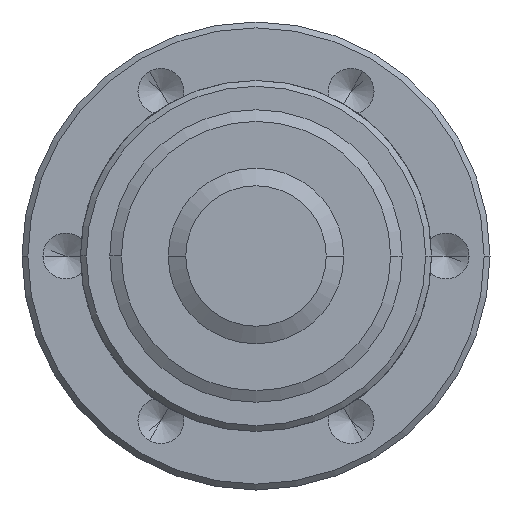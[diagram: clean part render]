
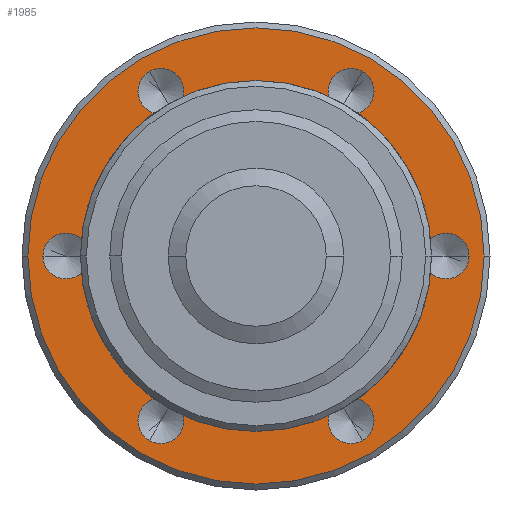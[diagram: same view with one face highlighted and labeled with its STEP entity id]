
A CAD part, left-side view. The second image highlights one B-rep face of the part: STEP entity #1985.
In plain terms, the highlighted planar face has unit normal (-1, 0, 0).
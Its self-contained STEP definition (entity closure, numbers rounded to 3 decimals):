
#97=CARTESIAN_POINT('',(0.,0.,0.));
#98=DIRECTION('',(-1.,0.,0.));
#99=DIRECTION('',(0.,1.,0.));
#100=AXIS2_PLACEMENT_3D('',#97,#98,#99);
#105=CARTESIAN_POINT('',(0.,0.,0.));
#106=DIRECTION('',(-1.,0.,0.));
#107=DIRECTION('',(0.,-1.,0.));
#108=AXIS2_PLACEMENT_3D('',#105,#106,#107);
#113=CARTESIAN_POINT('',(0.,6.5,0.));
#114=DIRECTION('',(1.,0.,0.));
#115=DIRECTION('',(0.,-1.,0.));
#116=AXIS2_PLACEMENT_3D('',#113,#114,#115);
#121=CARTESIAN_POINT('',(0.,6.5,0.));
#122=DIRECTION('',(1.,0.,0.));
#123=DIRECTION('',(0.,1.,0.));
#124=AXIS2_PLACEMENT_3D('',#121,#122,#123);
#129=CARTESIAN_POINT('',(0.,3.25,5.629));
#130=DIRECTION('',(1.,0.,0.));
#131=DIRECTION('',(0.,-0.5,-0.866));
#132=AXIS2_PLACEMENT_3D('',#129,#130,#131);
#137=CARTESIAN_POINT('',(0.,3.25,5.629));
#138=DIRECTION('',(1.,0.,0.));
#139=DIRECTION('',(0.,0.5,0.866));
#140=AXIS2_PLACEMENT_3D('',#137,#138,#139);
#145=CARTESIAN_POINT('',(0.,-3.25,5.629));
#146=DIRECTION('',(1.,0.,0.));
#147=DIRECTION('',(0.,0.5,-0.866));
#148=AXIS2_PLACEMENT_3D('',#145,#146,#147);
#153=CARTESIAN_POINT('',(0.,-3.25,5.629));
#154=DIRECTION('',(1.,0.,0.));
#155=DIRECTION('',(0.,-0.5,0.866));
#156=AXIS2_PLACEMENT_3D('',#153,#154,#155);
#161=CARTESIAN_POINT('',(0.,-6.5,0.));
#162=DIRECTION('',(1.,0.,0.));
#163=DIRECTION('',(0.,1.,0.));
#164=AXIS2_PLACEMENT_3D('',#161,#162,#163);
#169=CARTESIAN_POINT('',(0.,-6.5,0.));
#170=DIRECTION('',(1.,0.,0.));
#171=DIRECTION('',(0.,-1.,0.));
#172=AXIS2_PLACEMENT_3D('',#169,#170,#171);
#177=CARTESIAN_POINT('',(0.,-3.25,-5.629));
#178=DIRECTION('',(1.,0.,0.));
#179=DIRECTION('',(0.,0.5,0.866));
#180=AXIS2_PLACEMENT_3D('',#177,#178,#179);
#185=CARTESIAN_POINT('',(0.,-3.25,-5.629));
#186=DIRECTION('',(1.,0.,0.));
#187=DIRECTION('',(0.,-0.5,-0.866));
#188=AXIS2_PLACEMENT_3D('',#185,#186,#187);
#193=CARTESIAN_POINT('',(0.,3.25,-5.629));
#194=DIRECTION('',(1.,0.,0.));
#195=DIRECTION('',(0.,-0.5,0.866));
#196=AXIS2_PLACEMENT_3D('',#193,#194,#195);
#201=CARTESIAN_POINT('',(0.,3.25,-5.629));
#202=DIRECTION('',(1.,0.,0.));
#203=DIRECTION('',(0.,0.5,-0.866));
#204=AXIS2_PLACEMENT_3D('',#201,#202,#203);
#823=CARTESIAN_POINT('',(0.,0.,0.));
#824=DIRECTION('',(1.,0.,0.));
#825=DIRECTION('',(0.,1.,0.));
#826=AXIS2_PLACEMENT_3D('',#823,#824,#825);
#838=CARTESIAN_POINT('',(0.,0.,0.));
#839=DIRECTION('',(-1.,0.,0.));
#840=DIRECTION('',(0.,1.,0.));
#841=AXIS2_PLACEMENT_3D('',#838,#839,#840);
#1642=CARTESIAN_POINT('',(0.,5.715,0.));
#1643=CARTESIAN_POINT('',(0.,7.285,0.));
#1644=VERTEX_POINT('',#1642);
#1645=VERTEX_POINT('',#1643);
#1652=CARTESIAN_POINT('',(0.,2.858,4.949));
#1653=CARTESIAN_POINT('',(0.,3.643,6.309));
#1654=VERTEX_POINT('',#1652);
#1655=VERTEX_POINT('',#1653);
#1662=CARTESIAN_POINT('',(0.,-2.858,4.949));
#1663=CARTESIAN_POINT('',(0.,-3.643,6.309));
#1664=VERTEX_POINT('',#1662);
#1665=VERTEX_POINT('',#1663);
#1672=CARTESIAN_POINT('',(0.,-5.715,0.));
#1673=CARTESIAN_POINT('',(0.,-7.285,0.));
#1674=VERTEX_POINT('',#1672);
#1675=VERTEX_POINT('',#1673);
#1682=CARTESIAN_POINT('',(0.,-2.858,-4.949));
#1683=CARTESIAN_POINT('',(0.,-3.643,-6.309));
#1684=VERTEX_POINT('',#1682);
#1685=VERTEX_POINT('',#1683);
#1692=CARTESIAN_POINT('',(0.,2.858,-4.949));
#1693=CARTESIAN_POINT('',(0.,3.643,-6.309));
#1694=VERTEX_POINT('',#1692);
#1695=VERTEX_POINT('',#1693);
#1696=CARTESIAN_POINT('',(0.,7.8,0.));
#1697=CARTESIAN_POINT('',(0.,-7.8,0.));
#1698=VERTEX_POINT('',#1696);
#1699=VERTEX_POINT('',#1697);
#1732=CARTESIAN_POINT('',(0.,5.,0.));
#1734=VERTEX_POINT('',#1732);
#1740=CARTESIAN_POINT('',(0.,-5.,0.));
#1742=VERTEX_POINT('',#1740);
#1933=CARTESIAN_POINT('',(0.,0.,0.));
#1934=DIRECTION('',(-1.,0.,0.));
#1935=DIRECTION('',(0.,1.,0.));
#1936=AXIS2_PLACEMENT_3D('',#1933,#1934,#1935);
#1937=PLANE('',#1936);
#1938=ORIENTED_EDGE('',*,*,#1911,.F.);
#1940=ORIENTED_EDGE('',*,*,#1939,.F.);
#1941=EDGE_LOOP('',(#1938,#1940));
#1942=FACE_OUTER_BOUND('',#1941,.F.);
#1944=ORIENTED_EDGE('',*,*,#1943,.F.);
#1946=ORIENTED_EDGE('',*,*,#1945,.T.);
#1947=EDGE_LOOP('',(#1944,#1946));
#1948=FACE_BOUND('',#1947,.F.);
#1950=ORIENTED_EDGE('',*,*,#1949,.F.);
#1952=ORIENTED_EDGE('',*,*,#1951,.F.);
#1953=EDGE_LOOP('',(#1950,#1952));
#1954=FACE_BOUND('',#1953,.F.);
#1956=ORIENTED_EDGE('',*,*,#1955,.F.);
#1958=ORIENTED_EDGE('',*,*,#1957,.F.);
#1959=EDGE_LOOP('',(#1956,#1958));
#1960=FACE_BOUND('',#1959,.F.);
#1962=ORIENTED_EDGE('',*,*,#1961,.F.);
#1964=ORIENTED_EDGE('',*,*,#1963,.F.);
#1965=EDGE_LOOP('',(#1962,#1964));
#1966=FACE_BOUND('',#1965,.F.);
#1968=ORIENTED_EDGE('',*,*,#1967,.F.);
#1970=ORIENTED_EDGE('',*,*,#1969,.F.);
#1971=EDGE_LOOP('',(#1968,#1970));
#1972=FACE_BOUND('',#1971,.F.);
#1974=ORIENTED_EDGE('',*,*,#1973,.F.);
#1976=ORIENTED_EDGE('',*,*,#1975,.F.);
#1977=EDGE_LOOP('',(#1974,#1976));
#1978=FACE_BOUND('',#1977,.F.);
#1980=ORIENTED_EDGE('',*,*,#1979,.F.);
#1982=ORIENTED_EDGE('',*,*,#1981,.F.);
#1983=EDGE_LOOP('',(#1980,#1982));
#1984=FACE_BOUND('',#1983,.F.);
#1985=ADVANCED_FACE('',(#1942,#1948,#1954,#1960,#1966,#1972,#1978,#1984),#1937,
.T.);
#101=CIRCLE('',#100,7.8);
#109=CIRCLE('',#108,7.8);
#117=CIRCLE('',#116,0.785);
#125=CIRCLE('',#124,0.785);
#133=CIRCLE('',#132,0.785);
#141=CIRCLE('',#140,0.785);
#149=CIRCLE('',#148,0.785);
#157=CIRCLE('',#156,0.785);
#165=CIRCLE('',#164,0.785);
#173=CIRCLE('',#172,0.785);
#181=CIRCLE('',#180,0.785);
#189=CIRCLE('',#188,0.785);
#197=CIRCLE('',#196,0.785);
#205=CIRCLE('',#204,0.785);
#827=CIRCLE('',#826,5.);
#842=CIRCLE('',#841,5.);
#1911=EDGE_CURVE('',#1698,#1699,#101,.T.);
#1939=EDGE_CURVE('',#1699,#1698,#109,.T.);
#1943=EDGE_CURVE('',#1734,#1742,#827,.T.);
#1945=EDGE_CURVE('',#1734,#1742,#842,.T.);
#1949=EDGE_CURVE('',#1644,#1645,#117,.T.);
#1951=EDGE_CURVE('',#1645,#1644,#125,.T.);
#1955=EDGE_CURVE('',#1654,#1655,#133,.T.);
#1957=EDGE_CURVE('',#1655,#1654,#141,.T.);
#1961=EDGE_CURVE('',#1664,#1665,#149,.T.);
#1963=EDGE_CURVE('',#1665,#1664,#157,.T.);
#1967=EDGE_CURVE('',#1674,#1675,#165,.T.);
#1969=EDGE_CURVE('',#1675,#1674,#173,.T.);
#1973=EDGE_CURVE('',#1684,#1685,#181,.T.);
#1975=EDGE_CURVE('',#1685,#1684,#189,.T.);
#1979=EDGE_CURVE('',#1694,#1695,#197,.T.);
#1981=EDGE_CURVE('',#1695,#1694,#205,.T.);
